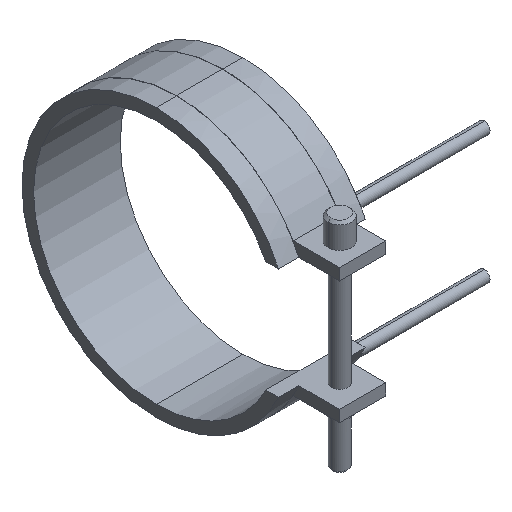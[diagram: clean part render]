
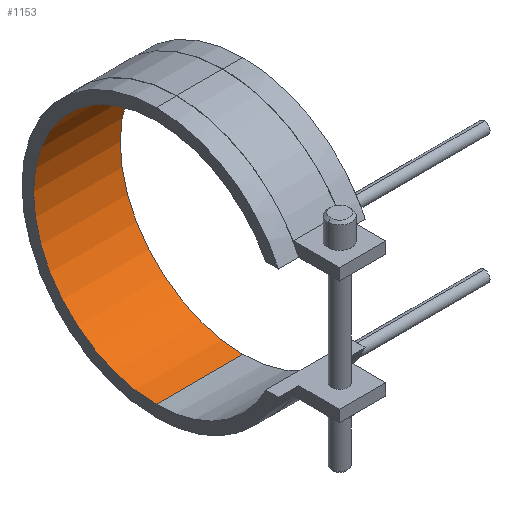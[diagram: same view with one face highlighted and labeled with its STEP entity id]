
A CAD part, isometric view. The second image highlights one B-rep face of the part: STEP entity #1153.
In plain terms, the highlighted cylindrical face has radius 42.5 mm (diameter 85 mm), a partial arc.
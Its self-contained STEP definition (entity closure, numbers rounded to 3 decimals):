
#834=CARTESIAN_POINT('Vertex',(-15.,0.,-42.5)) ;
#841=CARTESIAN_POINT('Vertex',(15.,0.,-42.5)) ;
#844=CARTESIAN_POINT('Line Origine',(15.,0.,-42.5)) ;
#862=CARTESIAN_POINT('Axis2P3D Location',(-15.,0.,0.)) ;
#866=CARTESIAN_POINT('Vertex',(-15.,0.,42.5)) ;
#923=CARTESIAN_POINT('Vertex',(15.,0.,42.5)) ;
#933=CARTESIAN_POINT('Line Origine',(15.,0.,42.5)) ;
#1024=CARTESIAN_POINT('Axis2P3D Location',(15.,0.,0.)) ;
#1142=CARTESIAN_POINT('Axis2P3D Location',(15.,0.,0.)) ;
#845=DIRECTION('Vector Direction',(1.,0.,0.)) ;
#863=DIRECTION('Axis2P3D Direction',(1.,0.,0.)) ;
#934=DIRECTION('Vector Direction',(1.,0.,0.)) ;
#1025=DIRECTION('Axis2P3D Direction',(1.,0.,0.)) ;
#1143=DIRECTION('Axis2P3D Direction',(1.,0.,-0.)) ;
#1144=DIRECTION('Axis2P3D XDirection',(0.,0.,-1.)) ;
#864=AXIS2_PLACEMENT_3D('Circle Axis2P3D',#862,#863,$) ;
#1026=AXIS2_PLACEMENT_3D('Circle Axis2P3D',#1024,#1025,$) ;
#1145=AXIS2_PLACEMENT_3D('Cylinder Axis2P3D',#1142,#1143,#1144) ;
#1148=ORIENTED_EDGE('',*,*,#1028,.T.) ;
#1149=ORIENTED_EDGE('',*,*,#937,.T.) ;
#1150=ORIENTED_EDGE('',*,*,#868,.F.) ;
#1151=ORIENTED_EDGE('',*,*,#848,.T.) ;
#846=VECTOR('Line Direction',#845,1.) ;
#935=VECTOR('Line Direction',#934,1.) ;
#1153=ADVANCED_FACE('14085030',(#1152),#1146,.F.) ;
#865=CIRCLE('generated circle',#864,42.5) ;
#1027=CIRCLE('generated circle',#1026,42.5) ;
#1146=CYLINDRICAL_SURFACE('generated cylinder',#1145,42.5) ;
#848=EDGE_CURVE('',#835,#842,#847,.T.) ;
#868=EDGE_CURVE('',#835,#867,#865,.T.) ;
#937=EDGE_CURVE('',#924,#867,#936,.F.) ;
#1028=EDGE_CURVE('',#842,#924,#1027,.T.) ;
#1147=EDGE_LOOP('',(#1148,#1149,#1150,#1151)) ;
#1152=FACE_OUTER_BOUND('',#1147,.T.) ;
#847=LINE('Line',#844,#846) ;
#936=LINE('Line',#933,#935) ;
#835=VERTEX_POINT('',#834) ;
#842=VERTEX_POINT('',#841) ;
#867=VERTEX_POINT('',#866) ;
#924=VERTEX_POINT('',#923) ;
